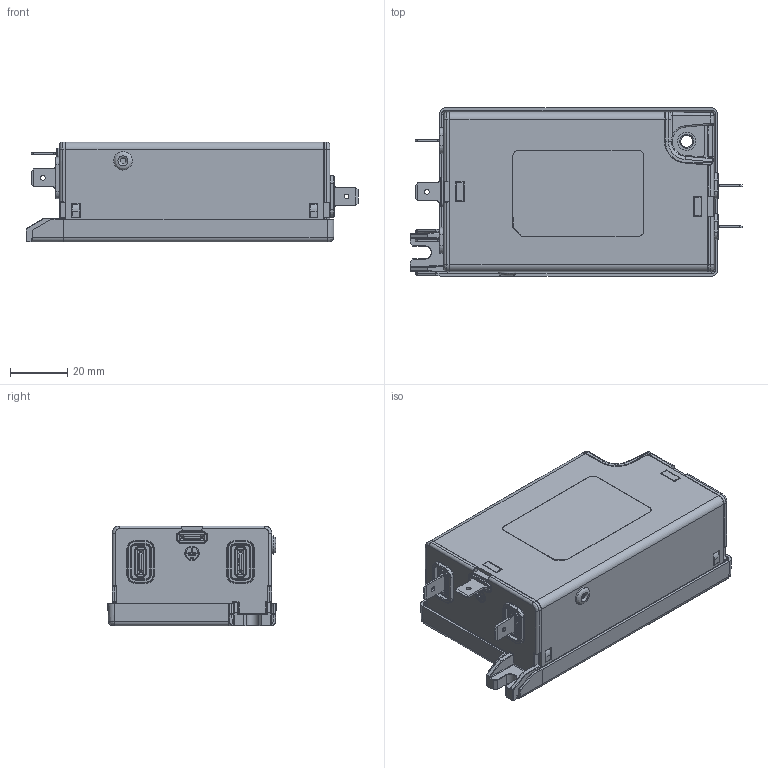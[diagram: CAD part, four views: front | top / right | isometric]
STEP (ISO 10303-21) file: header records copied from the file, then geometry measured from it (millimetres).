
FILE_DESCRIPTION(/* description */ (''),/* implementation_level */ '2;1');
FILE_NAME(/* name */ 'C:\Users\Christian.Ackermann\OneDrive - Schaffner EMV AG\Desktop\UMA_customerSTEP\FN250x-xx-05.stp',/* time_stamp */ '2021-08-24T09:27:46+02:00',/* author */ ('Christian.Ackermann'),/* organization */ (''),/* preprocessor_version */ 'ST-DEVELOPER v18.1',/* originating_system */ 'Autodesk Inventor 2020',/* authorisation */ '');
FILE_SCHEMA (('AUTOMOTIVE_DESIGN { 1 0 10303 214 3 1 1 }'));
Products named in the file (1): FN250x-xx-05
Bounding box: 116.4 x 59 x 35.06 mm (x, y, z)
Volume: 180731.3 mm3; surface area: 36203 mm2
Topology: 1 solids, 1 shells, 1735 faces, 4328 edges, 2624 vertices
Faces by surface type: plane 701, cylinder 600, torus 150, bspline 135, cone 87, sphere 62
Full cylindrical faces by diameter (mm): 1.65 x5, 2 x1, 4.2 x1, 6.111 x1, 6.4 x2, 6.5 x1, 8.39 x2, 8.74 x3
Entity records: 56614 total; most frequent: CARTESIAN_POINT 12825, DIRECTION 9102, ORIENTED_EDGE 8644, EDGE_CURVE 4322, AXIS2_PLACEMENT_3D 3278, VERTEX_POINT 2624, LINE 2546, VECTOR 2546
